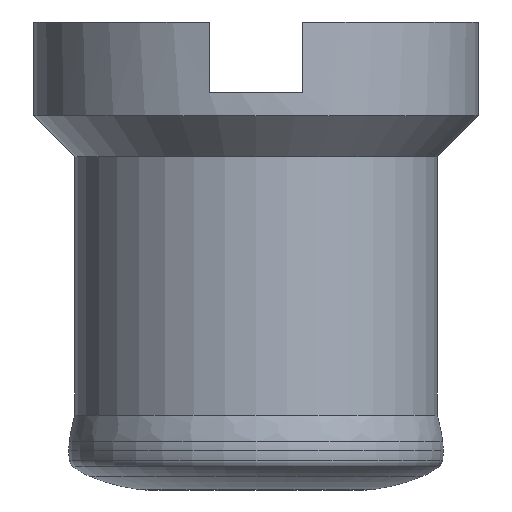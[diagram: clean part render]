
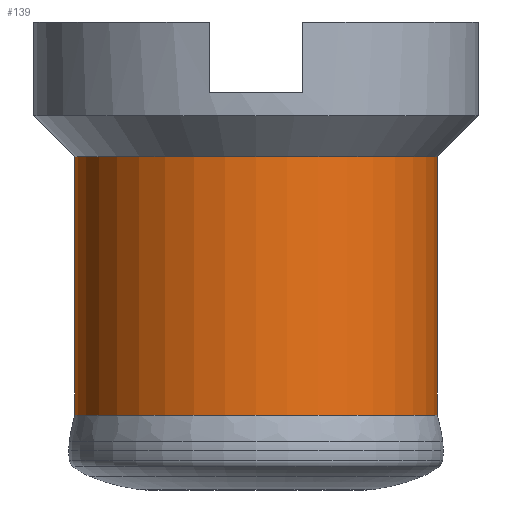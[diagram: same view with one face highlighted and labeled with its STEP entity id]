
A CAD part, front view. The second image highlights one B-rep face of the part: STEP entity #139.
In plain terms, the highlighted cylindrical face has radius 15.49 mm (diameter 30.98 mm), a partial arc.
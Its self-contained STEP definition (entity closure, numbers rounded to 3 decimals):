
#139=ADVANCED_FACE('',(#275),#276,.T.);
#275=FACE_OUTER_BOUND('',#405,.T.);
#276=CYLINDRICAL_SURFACE('',#406,15.49);
#405=EDGE_LOOP('',(#733,#734,#735,#736));
#406=AXIS2_PLACEMENT_3D('',#737,#738,#739);
#733=ORIENTED_EDGE('',*,*,#771,.T.);
#734=ORIENTED_EDGE('',*,*,#866,.T.);
#735=ORIENTED_EDGE('',*,*,#772,.T.);
#736=ORIENTED_EDGE('',*,*,#884,.F.);
#737=CARTESIAN_POINT('',(0.0,0.0,-21.75));
#738=DIRECTION('',(0.0,0.0,-1.0));
#739=DIRECTION('',(-1.0,0.0,0.0));
#771=EDGE_CURVE('',#902,#910,#911,.T.);
#772=EDGE_CURVE('',#912,#906,#913,.T.);
#866=EDGE_CURVE('',#910,#912,#1049,.T.);
#884=EDGE_CURVE('',#902,#906,#1067,.T.);
#902=VERTEX_POINT('',#1085);
#906=VERTEX_POINT('',#1090);
#910=VERTEX_POINT('',#1095);
#911=LINE('',#1096,#1097);
#912=VERTEX_POINT('',#1098);
#913=LINE('',#1099,#1100);
#1049=CIRCLE('',#1258,15.49);
#1067=CIRCLE('',#1276,15.49);
#1085=CARTESIAN_POINT('',(-15.49,0.,-11.51));
#1090=CARTESIAN_POINT('',(15.49,0.,-11.51));
#1095=CARTESIAN_POINT('',(-15.49,0.,-33.588));
#1096=CARTESIAN_POINT('',(-15.49,0.,-21.75));
#1097=VECTOR('',#1306,1.0);
#1098=CARTESIAN_POINT('',(15.49,0.,-33.588));
#1099=CARTESIAN_POINT('',(15.49,0.,-21.75));
#1100=VECTOR('',#1307,1.0);
#1258=AXIS2_PLACEMENT_3D('',#1468,#1469,#1470);
#1276=AXIS2_PLACEMENT_3D('',#1495,#1496,#1497);
#1306=DIRECTION('',(0.0,0.0,-1.0));
#1307=DIRECTION('',(-0.0,-0.0,1.0));
#1468=CARTESIAN_POINT('',(0.0,0.0,-33.588));
#1469=DIRECTION('',(0.0,-0.0,1.0));
#1470=DIRECTION('',(-1.0,0.0,0.0));
#1495=CARTESIAN_POINT('',(0.0,0.0,-11.51));
#1496=DIRECTION('',(0.0,-0.0,1.0));
#1497=DIRECTION('',(-1.0,0.0,0.0));
